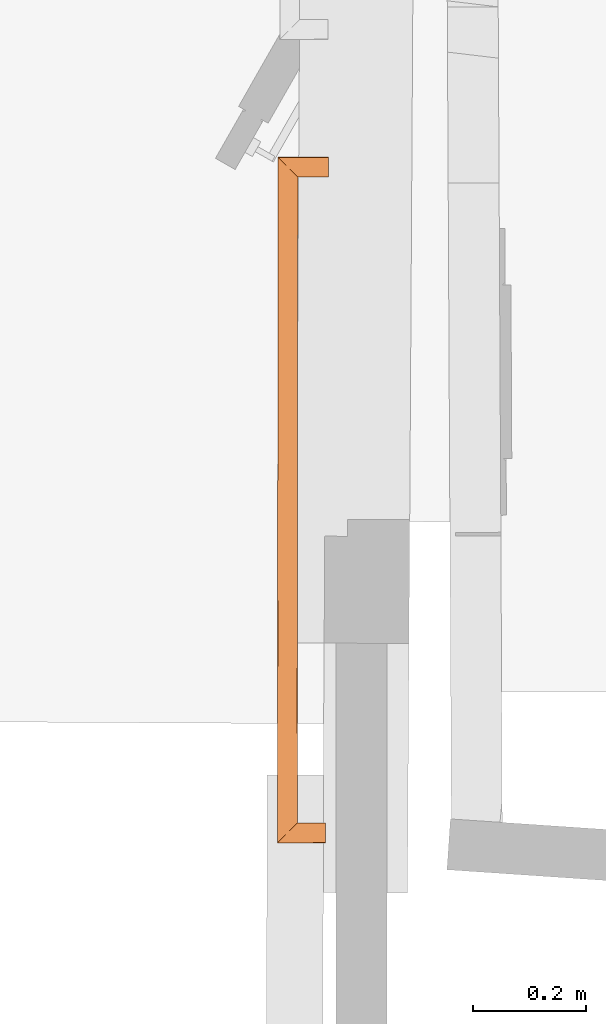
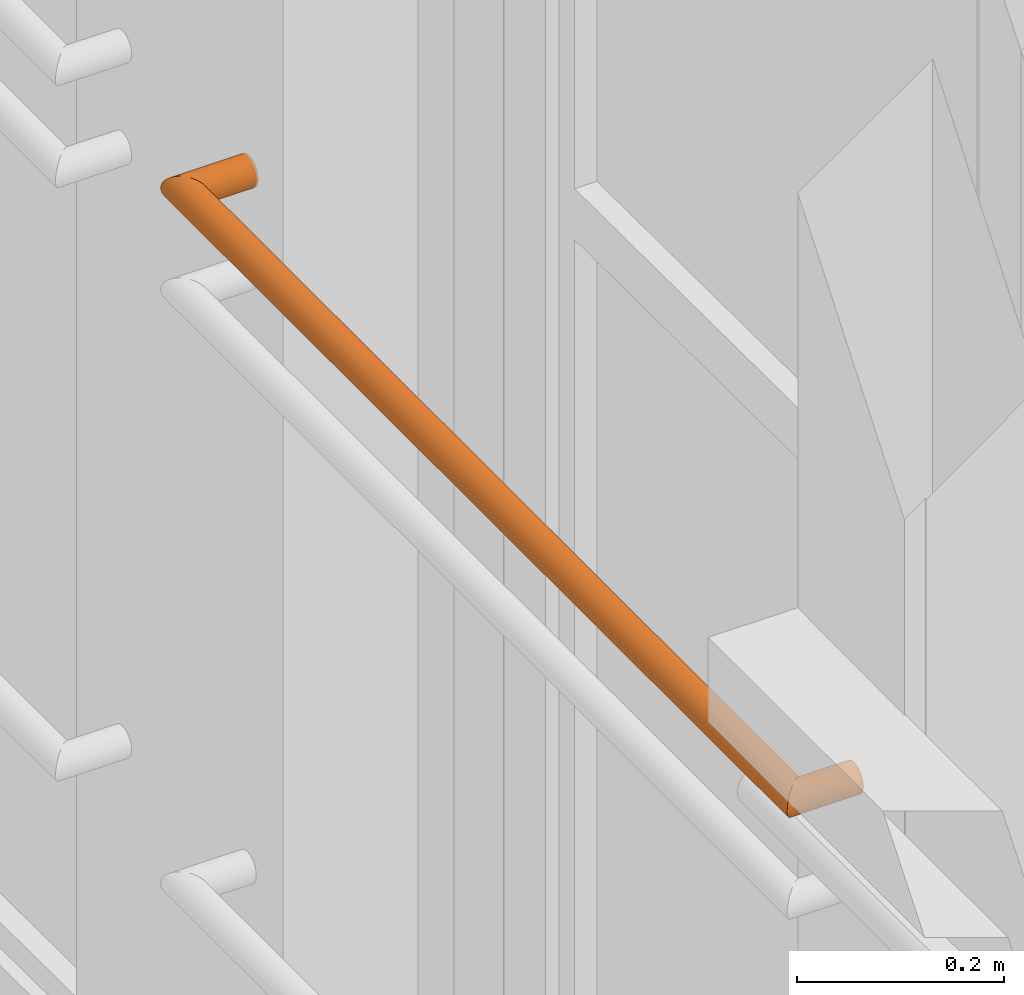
# One storey, part 86 of 97: 1 proxy.
"""IFC2X3 building model written with IfcOpenShell, lengths in centimetres."""

from ifc_helpers import new_model, entity, si_unit, converted_unit, direction, origin, origin_with_axes, place, context, subcontext, project, spatial, faceted_brep, material, type_object, element, save


model = new_model("IFC2X3")

# Units and contexts
model_context = context("Model", 3, precision=0.0001, world=origin(), true_north=direction((0.225632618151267, 0.974212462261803, 0.0)))
body_context = subcontext(model_context, "Body", "Model", "MODEL_VIEW")
ifc_project = project(units=[si_unit("LENGTHUNIT", "METRE", prefix="CENTI"), si_unit("AREAUNIT", "SQUARE_METRE", prefix="CENTI"), si_unit("VOLUMEUNIT", "CUBIC_METRE", prefix="CENTI"), converted_unit("PLANEANGLEUNIT", "DEGREE", entity("IfcRatioMeasure", 0.0174532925), si_unit("PLANEANGLEUNIT", "RADIAN"), dimensions=[0, 0, 0, 0, 0, 0, 0])], contexts=[model_context])

# Site, building, storey
site_placement = place(None, origin_with_axes())
site = spatial("IfcSite", under=ifc_project, at=site_placement, Name="Default Site", CompositionType="ELEMENT")
building_placement = place(site_placement, origin_with_axes())
building = spatial("IfcBuilding", under=site, at=building_placement, Name="Default Building", CompositionType="ELEMENT")
storey_placement = place(building_placement, origin_with_axes())
storey = spatial("IfcBuildingStorey", under=building, at=storey_placement, Name="Rez-de-chaussée", CompositionType="ELEMENT", Elevation=0.0)

# Proxy
ifc_material = material(Name="Aluminium mat")
building_element_proxy_type = type_object("IfcBuildingElementProxyType", Name="Profil [C] Ø35mm", PredefinedType="NOTDEFINED", material=ifc_material)
proxy_placement = place(storey_placement, origin_with_axes())
element("IfcBuildingElementProxy", 1, at=proxy_placement, inside=storey, type_object=building_element_proxy_type, material=ifc_material, Name="Extrusion (solide) 1702453", context=body_context, shape_type="Brep", body=[
    faceted_brep([(-1369.9257850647, -196.919214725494, 450.0), (-1369.89917754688, -196.892649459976, 449.696112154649), (-1361.42568587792, -196.899491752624, 449.696112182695), (-1361.42568588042, -196.92607852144, 450.000000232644), (-1369.89917755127, -196.892654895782, 449.696111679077), (-1369.82021332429, -196.813770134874, 449.401471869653), (-1361.42568588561, -196.820548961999, 449.40147299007), (-1361.42568588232, -196.899497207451, 449.696111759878), (-1369.82021331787, -196.813762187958, 449.401473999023), (-1369.69118117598, -196.684948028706, 449.125007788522), (-1361.42549514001, -196.691622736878, 449.125008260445), (-1361.4256858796, -196.820541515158, 449.401475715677), (-1369.69118118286, -196.684956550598, 449.125003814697), (-1369.51608658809, -196.510136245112, 448.875132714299), (-1361.42539979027, -196.516669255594, 448.875132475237), (-1361.42549514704, -196.691631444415, 449.125004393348), (-1369.51608657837, -196.510124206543, 448.875141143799), (-1369.30017470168, -196.29459154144, 448.659434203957), (-1361.42520903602, -196.30094796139, 448.659431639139), (-1361.42539978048, -196.516657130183, 448.875140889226), (-1369.30017471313, -196.294605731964, 448.659420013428), (-1369.05012131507, -196.044931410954, 448.484454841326), (-1361.42501831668, -196.051092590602, 448.484457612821), (-1361.42520904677, -196.300961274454, 448.659417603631), (-1369.05012130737, -196.044921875, 448.484468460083), (-1368.77336501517, -195.768671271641, 448.355546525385), (-1361.42482756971, -195.774607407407, 448.355547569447), (-1361.4250183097, -196.051083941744, 448.484470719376), (-1368.77336502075, -195.768678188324, 448.355531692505), (-1368.47848891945, -195.474263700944, 448.276579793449), (-1361.4245414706, -195.479961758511, 448.276580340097), (-1361.42482757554, -195.774614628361, 448.355532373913), (-1368.47848892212, -195.47426700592, 448.276567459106), (-1368.17436218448, -195.170631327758, 448.249981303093), (-1361.4243507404, -195.176079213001, 448.249981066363), (-1361.42454147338, -195.479965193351, 448.276567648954), (-1368.17436218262, -195.170629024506, 448.250007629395), (-1367.87023544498, -194.866993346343, 448.276593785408), (-1361.42406463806, -194.87220276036, 448.276593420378), (-1361.42435073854, -195.176076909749, 448.250007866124), (-1367.87023544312, -194.866991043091, 448.276567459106), (-1367.57535934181, -194.572576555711, 448.355519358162), (-1361.4238738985, -194.577547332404, 448.355518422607), (-1361.424064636, -194.872200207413, 448.276566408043), (-1367.57535934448, -194.572579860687, 448.355531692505), (-1367.2986984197, -194.296329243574, 448.484453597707), (-1361.42358779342, -194.301073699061, 448.484453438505), (-1361.42387390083, -194.577550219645, 448.35553025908), (-1367.29869842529, -194.296336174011, 448.484468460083), (-1367.04864502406, -194.046669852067, 448.659428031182), (-1361.42339706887, -194.051211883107, 448.659428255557), (-1361.42358779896, -194.301080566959, 448.484468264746), (-1367.04864501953, -194.046664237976, 448.659420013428), (-1366.83273314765, -193.831125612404, 448.875132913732), (-1361.42320631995, -193.83549718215, 448.87512950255), (-1361.4233970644, -194.051206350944, 448.659420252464), (-1366.8327331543, -193.831133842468, 448.875141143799), (-1366.65763855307, -193.656317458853, 449.125006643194), (-1361.42311096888, -193.660542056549, 449.12500985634), (-1361.42320632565, -193.83550424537, 448.87513793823), (-1366.6576385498, -193.656313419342, 449.125003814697), (-1366.52860641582, -193.527497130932, 449.401474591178), (-1361.42301559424, -193.53162020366, 449.401473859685), (-1361.42311096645, -193.660539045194, 449.125006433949), (-1366.52860641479, -193.527495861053, 449.401473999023), (-1366.44954681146, -193.448611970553, 449.696110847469), (-1361.42292022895, -193.452670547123, 449.696112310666), (-1361.42301559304, -193.531618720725, 449.401473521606), (-1366.44954681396, -193.448615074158, 449.696111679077), (-1366.4229393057, -193.422049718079, 450.000000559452), (-1361.42292022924, -193.426087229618, 450.000000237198), (-1361.42292023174, -193.452673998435, 449.696112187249), (-1366.42293930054, -193.422043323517, 450.0), (-1366.4495468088, -193.448608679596, 450.303888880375), (-1361.42292022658, -193.452667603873, 450.303888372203), (-1361.42292022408, -193.426080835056, 450.000000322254), (-1366.44954681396, -193.448615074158, 450.303888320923), (-1366.5286064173, -193.527498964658, 450.598525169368), (-1361.42301559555, -193.531621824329, 450.598525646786), (-1361.42292023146, -193.452673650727, 450.303886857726), (-1366.52860641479, -193.527495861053, 450.598526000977), (-1366.65763854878, -193.656312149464, 450.874996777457), (-1361.42311096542, -193.660537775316, 450.874994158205), (-1361.42301559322, -193.531618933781, 450.598526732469), (-1366.6576385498, -193.656313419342, 450.874996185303), (-1366.83273315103, -193.831129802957, 451.124861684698), (-1361.42320632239, -193.835500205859, 451.124864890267), (-1361.42311096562, -193.660538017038, 450.874992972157), (-1366.8327331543, -193.831133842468, 451.124858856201), (-1367.04864502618, -194.04667246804, 451.340571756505), (-1361.42339707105, -194.051214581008, 451.34057151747), (-1361.42320632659, -193.835505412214, 451.124862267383), (-1367.04864501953, -194.046664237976, 451.340579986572), (-1367.29869842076, -194.296330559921, 451.515539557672), (-1361.42358779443, -194.301074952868, 451.515539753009), (-1361.42339706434, -194.051206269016, 451.340579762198), (-1367.29869842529, -194.296336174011, 451.515531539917), (-1367.57535935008, -194.572586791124, 451.644453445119), (-1361.42387390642, -194.577557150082, 451.644454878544), (-1361.42358779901, -194.301080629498, 451.515531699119), (-1367.57535934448, -194.572579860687, 451.644468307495), (-1367.87023544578, -194.866994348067, 451.723420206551), (-1361.42406463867, -194.872203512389, 451.723421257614), (-1361.42387390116, -194.57755063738, 451.644469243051), (-1367.87023544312, -194.866991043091, 451.723432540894), (-1368.17436218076, -195.170626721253, 451.750018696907), (-1361.42435073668, -195.176074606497, 451.750018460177), (-1361.4240646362, -194.872200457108, 451.723432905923), (-1368.17436218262, -195.170629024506, 451.749992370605), (-1368.47848892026, -195.474264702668, 451.723406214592), (-1361.42454147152, -195.479962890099, 451.723406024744), (-1361.42435073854, -195.176076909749, 451.749992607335), (-1368.47848892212, -195.47426700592, 451.723432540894), (-1368.77336502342, -195.7686814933, 451.644480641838), (-1361.4248275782, -195.774617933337, 451.64447996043), (-1361.42454147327, -195.479965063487, 451.723431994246), (-1368.77336502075, -195.768678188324, 451.644468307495), (-1369.05012131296, -196.044928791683, 451.515546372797), (-1361.42501831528, -196.051090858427, 451.515544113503), (-1361.42482757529, -195.77461432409, 451.644467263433), (-1369.05012130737, -196.044921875, 451.515531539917), (-1369.30017470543, -196.29459619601, 451.340566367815), (-1361.42520903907, -196.300951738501, 451.340568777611), (-1361.42501830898, -196.051083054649, 451.515528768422), (-1369.30017471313, -196.294605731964, 451.340579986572), (-1369.51608658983, -196.510138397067, 451.12487304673), (-1361.42539979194, -196.516671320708, 451.124873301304), (-1361.42520904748, -196.300962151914, 451.34058255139), (-1369.51608657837, -196.510124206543, 451.124858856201), (-1369.69118117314, -196.684944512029, 450.874987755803), (-1361.42549513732, -196.691619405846, 450.874987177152), (-1361.42539978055, -196.516657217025, 451.124859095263), (-1369.69118118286, -196.684956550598, 450.874996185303), (-1369.82021332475, -196.81377070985, 450.598529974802), (-1361.42568588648, -196.820550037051, 450.598528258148), (-1361.42549514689, -196.691631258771, 450.87499571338), (-1369.82021331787, -196.813762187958, 450.598526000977), (-1369.89917754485, -196.892646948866, 450.303886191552), (-1361.42568587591, -196.899489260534, 450.303886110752), (-1361.42568587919, -196.820541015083, 450.59852488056), (-1369.89917755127, -196.892654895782, 450.303888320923), (-1369.92578506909, -196.919220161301, 450.000000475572), (-1361.42568588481, -196.926083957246, 450.000000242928), (-1361.42568588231, -196.89949718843, 450.303888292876), (-1369.82793807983, -75.724720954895, 450.0), (-1369.80137243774, -75.7513105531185, 449.696108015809), (-1369.89919349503, -196.892654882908, 449.696110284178), (-1369.92580172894, -196.919214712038, 449.999998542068), (-1369.80133056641, -75.7513105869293, 449.696111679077), (-1369.72244739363, -75.8302629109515, 449.401477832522), (-1369.82014469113, -196.813762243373, 449.401492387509), (-1369.89915317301, -196.892654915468, 449.696118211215), (-1369.72246170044, -75.8302628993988, 449.401473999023), (-1369.59364107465, -75.9591758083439, 449.124994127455), (-1369.69113986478, -196.684956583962, 449.12502308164), (-1369.82016549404, -196.813762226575, 449.40149629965), (-1369.59362030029, -75.959175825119, 449.125003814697), (-1369.41880777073, -76.1341452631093, 448.875143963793), (-1369.51603427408, -196.510124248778, 448.875177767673), (-1369.69113046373, -196.684956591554, 449.125039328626), (-1369.4188117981, -76.1341452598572, 448.875141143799), (-1369.20327308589, -76.349842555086, 448.659428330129), (-1369.30014705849, -196.294605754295, 448.659447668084), (-1369.51605060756, -196.510124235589, 448.875177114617), (-1369.20328140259, -76.3498425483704, 448.659420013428), (-1368.95361503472, -76.599723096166, 448.484460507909), (-1369.05010693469, -196.044921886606, 448.484488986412), (-1369.30016198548, -196.294605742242, 448.659438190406), (-1368.95360946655, -76.5997231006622, 448.484468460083), (-1368.67740777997, -76.8761873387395, 448.355569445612), (-1368.7733590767, -195.768678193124, 448.355544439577), (-1369.050110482, -196.044921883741, 448.48449167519), (-1368.67742538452, -76.8761873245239, 448.355531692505), (-1368.38302200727, -77.1708369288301, 448.276582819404), (-1368.47848925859, -195.474267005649, 448.276566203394), (-1368.77336939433, -195.768678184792, 448.35551537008), (-1368.38302612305, -77.1708369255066, 448.276567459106), (-1368.07937861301, -77.4747192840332, 448.249980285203), (-1368.17436497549, -195.17062902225, 448.249975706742), (-1368.47848942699, -195.474267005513, 448.276561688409), (-1368.0793762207, -77.474719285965, 448.250007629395), (-1367.7757287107, -77.778607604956, 448.276594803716), (-1367.87023813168, -194.86699104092, 448.276598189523), (-1368.17436258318, -195.170629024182, 448.250012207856), (-1367.77572631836, -77.7786076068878, 448.276567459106), (-1367.48132294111, -78.0732572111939, 448.355516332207), (-1367.5753579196, -194.572579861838, 448.355526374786), (-1367.87023805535, -194.866991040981, 448.2765772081), (-1367.48132705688, -78.0732572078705, 448.355531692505), (-1367.20504703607, -78.3497214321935, 448.484467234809), (-1367.29869344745, -194.296336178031, 448.484457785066), (-1367.57536651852, -194.572579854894, 448.355547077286), (-1367.20504760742, -78.3497214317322, 448.484468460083), (-1366.95538123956, -78.5996019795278, 448.659427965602), (-1367.04863526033, -194.046664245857, 448.659406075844), (-1367.29869030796, -194.296336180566, 448.484456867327), (-1366.95537567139, -78.599601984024, 448.659420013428), (-1366.73983695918, -78.8152992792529, 448.875132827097), (-1366.83271817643, -193.831133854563, 448.875126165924), (-1367.04862173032, -194.046664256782, 448.659396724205), (-1366.73984527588, -78.8152992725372, 448.875141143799), (-1366.56503274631, -78.9902687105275, 449.125000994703), (-1366.65762802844, -193.656313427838, 449.124996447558), (-1366.83272421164, -193.831133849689, 448.875134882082), (-1366.56503677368, -78.9902687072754, 449.125003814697), (-1366.43621614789, -79.1191816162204, 449.401483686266), (-1366.5286049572, -193.52749586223, 449.401473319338), (-1366.65763059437, -193.656313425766, 449.125000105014), (-1366.43619537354, -79.1191816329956, 449.401473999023), (-1366.35731220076, -79.1981339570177, 449.696107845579), (-1366.44956630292, -193.448615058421, 449.696116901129), (-1366.52858116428, -193.527495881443, 449.401467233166), (-1366.35732650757, -79.1981339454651, 449.696111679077), (-1366.33076086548, -79.2247235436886, 450.000003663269), (-1366.4229745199, -193.422043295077, 450.000003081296), (-1366.44958276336, -193.448615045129, 449.696114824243), (-1366.33071899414, -79.2247235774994, 450.0), (-1366.35728463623, -79.1981339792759, 450.303891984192), (-1366.44954089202, -193.44861507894, 450.303888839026), (-1366.42293264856, -193.422043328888, 450.000000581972), (-1366.35732650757, -79.1981339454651, 450.303888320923), (-1366.43620968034, -79.1191816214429, 450.598522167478), (-1366.52859547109, -193.52749586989, 450.598528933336), (-1366.44958060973, -193.448615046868, 450.303879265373), (-1366.43619537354, -79.1191816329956, 450.598526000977), (-1366.56501599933, -78.9902687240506, 450.875005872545), (-1366.65760982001, -193.656313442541, 450.875009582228), (-1366.52858418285, -193.527495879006, 450.598536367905), (-1366.56503677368, -78.9902687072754, 450.874996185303), (-1366.73984930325, -78.8152992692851, 451.124856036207), (-1366.83272823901, -193.831133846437, 451.124862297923), (-1366.65763205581, -193.656313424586, 450.875000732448), (-1366.73984527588, -78.8152992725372, 451.124858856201), (-1366.95538398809, -78.5996019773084, 451.340571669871), (-1367.04863004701, -194.046664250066, 451.340594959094), (-1366.83272649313, -193.831133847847, 451.124865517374), (-1366.95537567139, -78.599601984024, 451.340579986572), (-1367.20504203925, -78.3497214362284, 451.515539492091), (-1367.29868473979, -194.296336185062, 451.515551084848), (-1367.04862969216, -194.046664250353, 451.340601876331), (-1367.20504760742, -78.3497214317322, 451.515531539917), (-1367.48132762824, -78.0732572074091, 451.644467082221), (-1367.57536708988, -194.572579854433, 451.64445169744), (-1367.29869401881, -194.296336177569, 451.51554098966), (-1367.48132705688, -78.0732572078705, 451.644468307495), (-1367.77573043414, -77.7786076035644, 451.723417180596), (-1367.87024217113, -194.866991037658, 451.723407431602), (-1367.57536203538, -194.572579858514, 451.644458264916), (-1367.77572631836, -77.7786076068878, 451.723432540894), (-1368.07937382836, -77.4747192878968, 451.750019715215), (-1368.17436019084, -195.170629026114, 451.750015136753), (-1367.87023573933, -194.866991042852, 451.723429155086), (-1368.0793762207, -77.474719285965, 451.749992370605), (-1368.38302373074, -77.1708369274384, 451.723405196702), (-1368.47848703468, -195.474267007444, 451.7234109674), (-1368.17436258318, -195.170629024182, 451.749996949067), (-1368.38302612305, -77.1708369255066, 451.723432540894), (-1368.6774295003, -76.8761873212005, 451.644483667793), (-1368.77337351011, -195.768678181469, 451.644499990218), (-1368.47849337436, -195.474267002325, 451.723449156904), (-1368.67742538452, -76.8761873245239, 451.644468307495), (-1368.95362707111, -76.5997230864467, 451.515569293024), (-1369.05012808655, -196.044921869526, 451.515546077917), (-1368.77337668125, -195.768678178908, 451.64449331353), (-1368.95360946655, -76.5997231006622, 451.515531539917), (-1369.20327583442, -76.3498425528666, 451.340572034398), (-1369.30015641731, -196.294605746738, 451.34055385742), (-1369.05010136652, -196.044921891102, 451.515503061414), (-1369.20328140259, -76.3498425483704, 451.340579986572), (-1369.41882011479, -76.1341452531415, 451.124867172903), (-1369.51605892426, -196.510124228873, 451.124831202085), (-1369.30015537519, -196.294605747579, 451.340560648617), (-1369.4188117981, -76.1341452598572, 451.124858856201), (-1369.59362432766, -75.9591758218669, 450.874999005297), (-1369.6911344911, -196.684956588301, 450.874963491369), (-1369.51603830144, -196.510124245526, 451.124825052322), (-1369.59362030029, -75.959175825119, 450.874996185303), (-1369.72244092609, -75.830262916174, 450.598516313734), (-1369.82014471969, -196.81376224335, 450.598494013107), (-1369.69111909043, -196.684956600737, 450.874967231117), (-1369.72246170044, -75.8302628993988, 450.598526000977), (-1369.80134487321, -75.7513105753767, 450.303892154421), (-1369.89916747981, -196.892654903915, 450.303885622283), (-1369.82015899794, -196.813762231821, 450.598511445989), (-1369.80133056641, -75.7513105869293, 450.303888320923), (-1369.8278962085, -75.7247209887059, 449.999996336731), (-1369.9257598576, -196.919214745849, 449.999997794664), (-1369.8991516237, -196.892654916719, 450.303886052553), (-1360.93797683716, -75.724720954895, 450.0), (-1360.93797683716, -75.7513077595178, 449.696111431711), (-1369.80133056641, -75.7513077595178, 449.696111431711), (-1360.93797683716, -75.7513105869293, 449.696111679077), (-1360.93797683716, -75.8302588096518, 449.401472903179), (-1369.72246170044, -75.8302588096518, 449.401472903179), (-1360.93797683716, -75.8302628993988, 449.401473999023), (-1360.93797683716, -75.9591817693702, 449.125006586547), (-1369.59362030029, -75.9591817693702, 449.125006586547), (-1360.93797683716, -75.959175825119, 449.125003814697), (-1360.93797683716, -76.13413606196, 448.875134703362), (-1369.4188117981, -76.13413606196, 448.875134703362), (-1360.93797683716, -76.1341452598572, 448.875141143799), (-1360.93797683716, -76.3498544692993, 448.659431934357), (-1369.20328140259, -76.3498544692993, 448.659431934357), (-1360.93797683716, -76.3498425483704, 448.659420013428), (-1360.93797683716, -76.5997152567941, 448.484457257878), (-1368.95360946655, -76.5997152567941, 448.484457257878), (-1360.93797683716, -76.5997231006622, 448.484468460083), (-1360.93797683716, -76.8761947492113, 448.355547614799), (-1368.67742538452, -76.8761947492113, 448.355547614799), (-1360.93797683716, -76.8761873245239, 448.355531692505), (-1360.93797683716, -77.1708402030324, 448.276579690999), (-1368.38302612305, -77.1708402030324, 448.276579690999), (-1360.93797683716, -77.1708369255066, 448.276567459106), (-1360.93797683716, -77.4747169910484, 448.249981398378), (-1368.0793762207, -77.4747169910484, 448.249981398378), (-1360.93797683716, -77.474719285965, 448.250007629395), (-1360.93797683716, -77.7786052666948, 448.276594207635), (-1367.77572631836, -77.7786052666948, 448.276594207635), (-1360.93797683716, -77.7786076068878, 448.276567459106), (-1360.93797683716, -78.0732604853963, 448.355519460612), (-1367.48132705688, -78.0732604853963, 448.355519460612), (-1360.93797683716, -78.0732572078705, 448.355531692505), (-1360.93797683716, -78.3497288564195, 448.484452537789), (-1367.20504760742, -78.3497288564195, 448.484452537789), (-1360.93797683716, -78.3497214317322, 448.484468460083), (-1360.93797683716, -78.5995941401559, 448.659431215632), (-1366.95537567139, -78.5995941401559, 448.659431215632), (-1360.93797683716, -78.599601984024, 448.659420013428), (-1360.93797683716, -78.8153111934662, 448.87512922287), (-1366.73984527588, -78.8153111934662, 448.87512922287), (-1360.93797683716, -78.8152992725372, 448.875141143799), (-1360.93797683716, -78.9902595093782, 449.125010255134), (-1366.56503677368, -78.9902595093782, 449.125010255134), (-1360.93797683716, -78.9902687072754, 449.125003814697), (-1360.93797683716, -79.1191875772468, 449.401471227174), (-1366.43619537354, -79.1191875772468, 449.401471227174), (-1360.93797683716, -79.1191816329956, 449.401473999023), (-1360.93797683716, -79.1981298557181, 449.696112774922), (-1366.35732650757, -79.1981298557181, 449.696112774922), (-1360.93797683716, -79.1981339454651, 449.696111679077), (-1360.93797683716, -79.2247207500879, 450.000000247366), (-1366.33071899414, -79.2247207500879, 450.000000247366), (-1360.93797683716, -79.2247235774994, 450.0), (-1360.93797683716, -79.1981367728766, 450.303888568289), (-1366.35732650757, -79.1981367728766, 450.303888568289), (-1360.93797683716, -79.1981339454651, 450.303888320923), (-1360.93797683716, -79.1191857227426, 450.598527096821), (-1366.43619537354, -79.1191857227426, 450.598527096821), (-1360.93797683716, -79.1191816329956, 450.598526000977), (-1360.93797683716, -78.9902627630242, 450.874993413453), (-1366.56503677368, -78.9902627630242, 450.874993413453), (-1360.93797683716, -78.9902687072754, 450.874996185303), (-1360.93797683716, -78.8153084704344, 451.124865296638), (-1366.73984527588, -78.8153084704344, 451.124865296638), (-1360.93797683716, -78.8152992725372, 451.124858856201), (-1360.93797683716, -78.5995900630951, 451.340568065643), (-1366.95537567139, -78.5995900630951, 451.340568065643), (-1360.93797683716, -78.599601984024, 451.340579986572), (-1360.93797683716, -78.3497292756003, 451.515542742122), (-1367.20504760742, -78.3497292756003, 451.515542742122), (-1360.93797683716, -78.3497214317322, 451.515531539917), (-1360.93797683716, -78.0732497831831, 451.644452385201), (-1367.48132705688, -78.0732497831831, 451.644452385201), (-1360.93797683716, -78.0732572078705, 451.644468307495), (-1360.93797683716, -77.778604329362, 451.723420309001), (-1367.77572631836, -77.778604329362, 451.723420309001), (-1360.93797683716, -77.7786076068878, 451.723432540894), (-1360.93797683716, -77.474721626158, 451.750019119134), (-1368.0793762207, -77.474721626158, 451.750019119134), (-1360.93797683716, -77.474719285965, 451.749992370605), (-1360.93797683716, -77.1708392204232, 451.723406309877), (-1368.38302612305, -77.1708392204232, 451.723406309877), (-1360.93797683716, -77.1708369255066, 451.723432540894), (-1360.93797683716, -76.8761840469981, 451.644480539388), (-1368.67742538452, -76.8761840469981, 451.644480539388), (-1360.93797683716, -76.8761873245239, 451.644468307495), (-1360.93797683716, -76.5997156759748, 451.515547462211), (-1368.95360946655, -76.5997156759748, 451.515547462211), (-1360.93797683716, -76.5997231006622, 451.515531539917), (-1360.93797683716, -76.3498503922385, 451.340568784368), (-1369.20328140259, -76.3498503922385, 451.340568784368), (-1360.93797683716, -76.3498425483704, 451.340579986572), (-1360.93797683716, -76.1341333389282, 451.12487077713), (-1369.4188117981, -76.1341333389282, 451.12487077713), (-1360.93797683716, -76.1341452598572, 451.124858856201), (-1360.93797683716, -75.9591850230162, 450.874989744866), (-1369.59362030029, -75.9591850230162, 450.874989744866), (-1360.93797683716, -75.959175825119, 450.874996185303), (-1360.93797683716, -75.8302569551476, 450.598528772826), (-1369.72246170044, -75.8302569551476, 450.598528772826), (-1360.93797683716, -75.8302628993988, 450.598526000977), (-1360.93797683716, -75.7513146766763, 450.303887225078), (-1369.80133056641, -75.7513146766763, 450.303887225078), (-1360.93797683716, -75.7513105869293, 450.303888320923), (-1360.93797683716, -75.7247237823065, 449.999999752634), (-1369.82793807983, -75.7247237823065, 449.999999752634), (-1361.42568588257, -196.926081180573, 450.0), (-1361.42566441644, -196.899497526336, 449.696111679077), (-1361.42560066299, -196.820545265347, 449.401473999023), (-1361.42549656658, -196.691632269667, 449.125003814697), (-1361.4253552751, -196.516656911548, 448.875141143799), (-1361.42518110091, -196.300959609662, 448.659420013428), (-1361.42497932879, -196.051085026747, 448.484468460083), (-1361.42475608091, -195.774614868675, 448.355531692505), (-1361.42451815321, -195.479965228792, 448.276567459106), (-1361.42427276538, -195.176076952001, 448.250007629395), (-1361.42402738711, -194.872200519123, 448.276567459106), (-1361.42378945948, -194.577550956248, 448.355531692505), (-1361.42356621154, -194.301080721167, 448.484468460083), (-1361.42336443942, -194.051206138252, 448.659420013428), (-1361.42319026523, -193.835508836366, 448.875141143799), (-1361.42304897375, -193.660533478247, 449.125003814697), (-1361.4229448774, -193.531620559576, 449.401473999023), (-1361.42288112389, -193.452668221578, 449.696111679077), (-1361.42285965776, -193.426084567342, 450.0), (-1361.42288112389, -193.452668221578, 450.303888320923), (-1361.4229448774, -193.531620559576, 450.598526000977), (-1361.42304897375, -193.660533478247, 450.874996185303), (-1361.42319026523, -193.835508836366, 451.124858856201), (-1361.42336443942, -194.051206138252, 451.340579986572), (-1361.42356621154, -194.301080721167, 451.515531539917), (-1361.42378945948, -194.577550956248, 451.644468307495), (-1361.42402738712, -194.872200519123, 451.723432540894), (-1361.42427276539, -195.176076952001, 451.749992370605), (-1361.42451815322, -195.479965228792, 451.723432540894), (-1361.42475608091, -195.774614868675, 451.644468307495), (-1361.42497932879, -196.051085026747, 451.515531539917), (-1361.42518110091, -196.300959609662, 451.340579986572), (-1361.4253552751, -196.516656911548, 451.124858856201), (-1361.42549656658, -196.691632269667, 450.874996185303), (-1361.42560066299, -196.820545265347, 450.598526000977), (-1361.42566441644, -196.899497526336, 450.303888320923)], [[[0, 1, 2, 3]], [[4, 5, 6, 7]], [[8, 9, 10, 11]], [[12, 13, 14, 15]], [[16, 17, 18, 19]], [[20, 21, 22, 23]], [[24, 25, 26, 27]], [[28, 29, 30, 31]], [[32, 33, 34, 35]], [[36, 37, 38, 39]], [[40, 41, 42, 43]], [[44, 45, 46, 47]], [[48, 49, 50, 51]], [[52, 53, 54, 55]], [[56, 57, 58, 59]], [[60, 61, 62, 63]], [[64, 65, 66, 67]], [[68, 69, 70, 71]], [[72, 73, 74, 75]], [[76, 77, 78, 79]], [[80, 81, 82, 83]], [[84, 85, 86, 87]], [[88, 89, 90, 91]], [[92, 93, 94, 95]], [[96, 97, 98, 99]], [[100, 101, 102, 103]], [[104, 105, 106, 107]], [[108, 109, 110, 111]], [[112, 113, 114, 115]], [[116, 117, 118, 119]], [[120, 121, 122, 123]], [[124, 125, 126, 127]], [[128, 129, 130, 131]], [[132, 133, 134, 135]], [[136, 137, 138, 139]], [[140, 141, 142, 143]], [[144, 145, 146, 147]], [[148, 149, 150, 151]], [[152, 153, 154, 155]], [[156, 157, 158, 159]], [[160, 161, 162, 163]], [[164, 165, 166, 167]], [[168, 169, 170, 171]], [[172, 173, 174, 175]], [[176, 177, 178, 179]], [[180, 181, 182, 183]], [[184, 185, 186, 187]], [[188, 189, 190, 191]], [[192, 193, 194, 195]], [[196, 197, 198, 199]], [[200, 201, 202, 203]], [[204, 205, 206, 207]], [[208, 209, 210, 211]], [[212, 213, 214, 215]], [[216, 217, 218, 219]], [[220, 221, 222, 223]], [[224, 225, 226, 227]], [[228, 229, 230, 231]], [[232, 233, 234, 235]], [[236, 237, 238, 239]], [[240, 241, 242, 243]], [[244, 245, 246, 247]], [[248, 249, 250, 251]], [[252, 253, 254, 255]], [[256, 257, 258, 259]], [[260, 261, 262, 263]], [[264, 265, 266, 267]], [[268, 269, 270, 271]], [[272, 273, 274, 275]], [[276, 277, 278, 279]], [[280, 281, 282, 283]], [[284, 285, 286, 287]], [[288, 289, 290, 144]], [[291, 292, 293, 148]], [[294, 295, 296, 152]], [[297, 298, 299, 156]], [[300, 301, 302, 160]], [[303, 304, 305, 164]], [[306, 307, 308, 168]], [[309, 310, 311, 172]], [[312, 313, 314, 176]], [[315, 316, 317, 180]], [[318, 319, 320, 184]], [[321, 322, 323, 188]], [[324, 325, 326, 192]], [[327, 328, 329, 196]], [[330, 331, 332, 200]], [[333, 334, 335, 204]], [[336, 337, 338, 208]], [[339, 340, 341, 212]], [[342, 343, 344, 216]], [[345, 346, 347, 220]], [[348, 349, 350, 224]], [[351, 352, 353, 228]], [[354, 355, 356, 232]], [[357, 358, 359, 236]], [[360, 361, 362, 240]], [[363, 364, 365, 244]], [[366, 367, 368, 248]], [[369, 370, 371, 252]], [[372, 373, 374, 256]], [[375, 376, 377, 260]], [[378, 379, 380, 264]], [[381, 382, 383, 268]], [[384, 385, 386, 272]], [[387, 388, 389, 276]], [[390, 391, 392, 280]], [[393, 394, 395, 284]], [[396, 397, 398, 399, 400, 401, 402, 403, 404, 405, 406, 407, 408, 409, 410, 411, 412, 413, 414, 415, 416, 417, 418, 419, 420, 421, 422, 423, 424, 425, 426, 427, 428, 429, 430, 431]], [[393, 390, 387, 384, 381, 378, 375, 372, 369, 366, 363, 360, 357, 354, 351, 348, 345, 342, 339, 336, 333, 330, 327, 324, 321, 318, 315, 312, 309, 306, 303, 300, 297, 294, 291, 288]]]),
])

save(model, "model.ifc")
